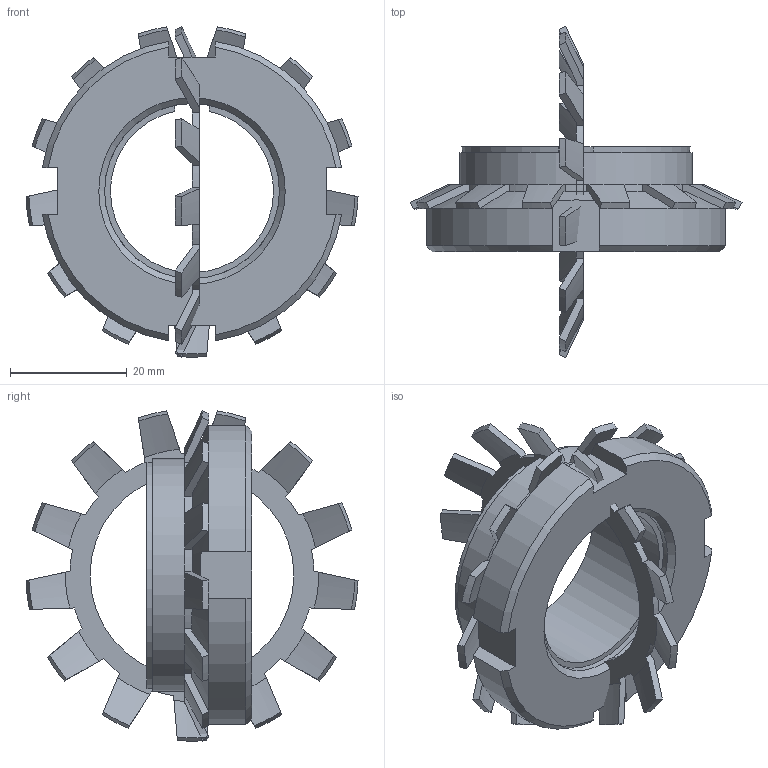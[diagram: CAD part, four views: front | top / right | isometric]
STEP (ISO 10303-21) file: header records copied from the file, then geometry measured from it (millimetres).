
FILE_DESCRIPTION( ( 'Unknown' ), '1' );
FILE_NAME( 'C:/Dokumente und Einstellungen/Sven/Desktop/homepage/cad - homepage/KBS51/KBS 51 - 28 x 40.stp', 'Unknown', ( 'Unknown' ), ( 'Unknown' ), 'XStep 1.0', 'Unknown', ' ' );
FILE_SCHEMA( ( 'automotive_design' ) );
Length unit declared in the file: millimetre
Products named in the file (3): Assem1; KBS 51 - 28 x 40; 08570079_locking_plate_din_5406_mb_7_2_14a
Bounding box: 56.97 x 56.97 x 56.65 mm (x, y, z)
Volume: 37706.2 mm3; surface area: 19014.3 mm2
Topology: 4 solids, 4 shells, 240 faces, 688 edges, 456 vertices
Faces by surface type: plane 104, cone 94, cylinder 42
Full cylindrical faces by diameter (mm): 30 x2, 40 x2
Entity records: 4292 total; most frequent: CARTESIAN_POINT 903, ORIENTED_EDGE 676, DIRECTION 640, EDGE_CURVE 338, AXIS2_PLACEMENT_3D 253, VERTEX_POINT 226, LINE 134, VECTOR 134
